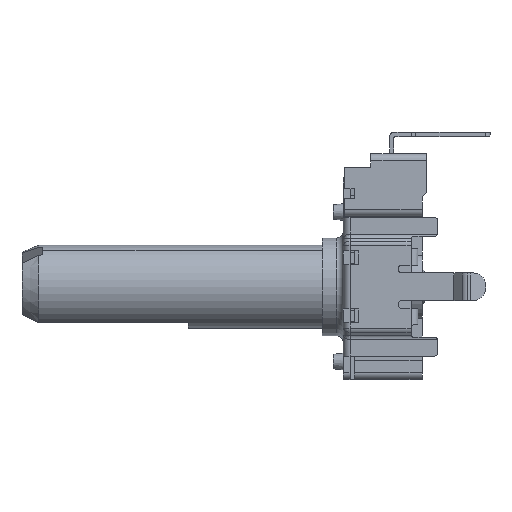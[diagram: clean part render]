
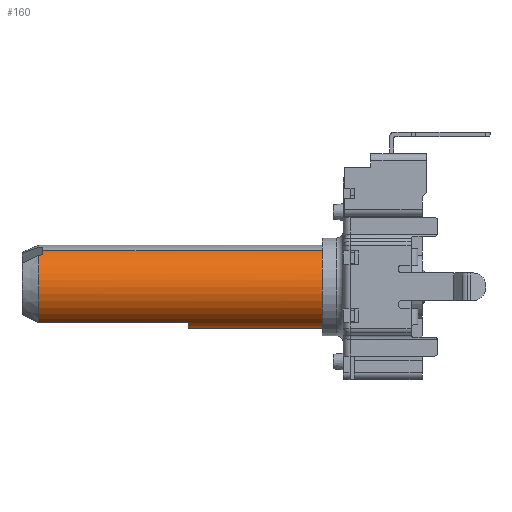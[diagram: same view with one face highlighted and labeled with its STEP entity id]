
A CAD part, left-side view. The second image highlights one B-rep face of the part: STEP entity #160.
In plain terms, the highlighted cylindrical face has radius 3 mm (diameter 6 mm), a partial arc.
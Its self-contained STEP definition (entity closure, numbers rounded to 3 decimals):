
#51 = VECTOR ( 'NONE', #6512, 1000. ) ;
#160 = ADVANCED_FACE ( 'NONE', ( #12711 ), #703, .T. ) ;
#313 = CARTESIAN_POINT ( 'NONE',  ( 0., 14.3, 3. ) ) ;
#604 = VERTEX_POINT ( 'NONE', #313 ) ;
#703 = CYLINDRICAL_SURFACE ( 'NONE', #17225, 3. ) ;
#1114 = DIRECTION ( 'NONE',  ( 0., 0., -1. ) ) ;
#1425 = CIRCLE ( 'NONE', #2810, 3. ) ;
#1721 = DIRECTION ( 'NONE',  ( 0., 0., 1. ) ) ;
#1820 = VECTOR ( 'NONE', #11490, 1000. ) ;
#1883 = EDGE_CURVE ( 'NONE', #604, #2732, #13291, .T. ) ;
#1898 = DIRECTION ( 'NONE',  ( 0., 1., 0. ) ) ;
#1907 = DIRECTION ( 'NONE',  ( 0., 0., 1. ) ) ;
#1975 = VERTEX_POINT ( 'NONE', #6320 ) ;
#2638 = CARTESIAN_POINT ( 'NONE',  ( 2.598, 14.3, 1.5 ) ) ;
#2732 = VERTEX_POINT ( 'NONE', #2638 ) ;
#2810 = AXIS2_PLACEMENT_3D ( 'NONE', #4427, #2952, #1907 ) ;
#2952 = DIRECTION ( 'NONE',  ( 0., 1., 0. ) ) ;
#3316 = ORIENTED_EDGE ( 'NONE', *, *, #1883, .F. ) ;
#3613 = DIRECTION ( 'NONE',  ( 0., 0., -1. ) ) ;
#3990 = LINE ( 'NONE', #9350, #16088 ) ;
#4427 = CARTESIAN_POINT ( 'NONE',  ( 0., 2.5, 0. ) ) ;
#4519 = EDGE_CURVE ( 'NONE', #1975, #8512, #13467, .T. ) ;
#4856 = ORIENTED_EDGE ( 'NONE', *, *, #10135, .F. ) ;
#4998 = VERTEX_POINT ( 'NONE', #16537 ) ;
#5086 = EDGE_CURVE ( 'NONE', #8512, #4998, #14567, .T. ) ;
#5122 = DIRECTION ( 'NONE',  ( 0., -1., 0. ) ) ;
#5143 = VERTEX_POINT ( 'NONE', #14425 ) ;
#5391 = CARTESIAN_POINT ( 'NONE',  ( 0.533, 25., -2.952 ) ) ;
#6194 = CARTESIAN_POINT ( 'NONE',  ( 0.5, 24.8, -2.958 ) ) ;
#6247 = EDGE_CURVE ( 'NONE', #12303, #16739, #1425, .T. ) ;
#6320 = CARTESIAN_POINT ( 'NONE',  ( 0.55, 25.1, -2.949 ) ) ;
#6490 = CARTESIAN_POINT ( 'NONE',  ( 0., 24.8, 0. ) ) ;
#6512 = DIRECTION ( 'NONE',  ( 0., -1., 0. ) ) ;
#6706 = CARTESIAN_POINT ( 'NONE',  ( 0.55, 25.1, -2.949 ) ) ;
#7346 = CARTESIAN_POINT ( 'NONE',  ( 2.598, 14.3, 1.5 ) ) ;
#7439 = ORIENTED_EDGE ( 'NONE', *, *, #10259, .F. ) ;
#7572 = CARTESIAN_POINT ( 'NONE',  ( 0., 25.1, 0. ) ) ;
#8123 = AXIS2_PLACEMENT_3D ( 'NONE', #7572, #11631, #16969 ) ;
#8512 = VERTEX_POINT ( 'NONE', #6194 ) ;
#9261 = ORIENTED_EDGE ( 'NONE', *, *, #4519, .F. ) ;
#9332 = CARTESIAN_POINT ( 'NONE',  ( 0., 25.1, 3. ) ) ;
#9350 = CARTESIAN_POINT ( 'NONE',  ( 0., 25.1, -3. ) ) ;
#9447 = CARTESIAN_POINT ( 'NONE',  ( 0.5, 24.8, -2.958 ) ) ;
#9987 = LINE ( 'NONE', #7346, #1820 ) ;
#10135 = EDGE_CURVE ( 'NONE', #2732, #5143, #9987, .T. ) ;
#10259 = EDGE_CURVE ( 'NONE', #4998, #16739, #3990, .T. ) ;
#10526 = ORIENTED_EDGE ( 'NONE', *, *, #13547, .F. ) ;
#10779 = CARTESIAN_POINT ( 'NONE',  ( 0.517, 24.9, -2.955 ) ) ;
#11397 = CARTESIAN_POINT ( 'NONE',  ( 0., 25.1, 0. ) ) ;
#11490 = DIRECTION ( 'NONE',  ( 0., 1., 0. ) ) ;
#11631 = DIRECTION ( 'NONE',  ( 0., 1., 0. ) ) ;
#11983 = EDGE_LOOP ( 'NONE', ( #3316, #15743, #14473, #7439, #16951, #9261, #10526, #4856 ) ) ;
#12252 = CARTESIAN_POINT ( 'NONE',  ( 0., 2.5, -3. ) ) ;
#12303 = VERTEX_POINT ( 'NONE', #15580 ) ;
#12711 = FACE_OUTER_BOUND ( 'NONE', #11983, .T. ) ;
#13057 = DIRECTION ( 'NONE',  ( 0., -1., 0. ) ) ;
#13291 = CIRCLE ( 'NONE', #15260, 3. ) ;
#13467 =( BOUNDED_CURVE ( )  B_SPLINE_CURVE ( 3, ( #6706, #5391, #10779, #9447 ),
 .UNSPECIFIED., .F., .F. ) 
 B_SPLINE_CURVE_WITH_KNOTS ( ( 4, 4 ),
 ( 4.528, 4.545 ),
 .UNSPECIFIED. ) 
 CURVE ( )  GEOMETRIC_REPRESENTATION_ITEM ( )  RATIONAL_B_SPLINE_CURVE ( ( 1., 1., 1., 1. ) ) 
 REPRESENTATION_ITEM ( '' )  );
#13547 = EDGE_CURVE ( 'NONE', #5143, #1975, #14017, .T. ) ;
#13658 = CARTESIAN_POINT ( 'NONE',  ( 0., 14.3, 0. ) ) ;
#14017 = CIRCLE ( 'NONE', #8123, 3. ) ;
#14425 = CARTESIAN_POINT ( 'NONE',  ( 2.598, 25.1, 1.5 ) ) ;
#14443 = LINE ( 'NONE', #9332, #51 ) ;
#14473 = ORIENTED_EDGE ( 'NONE', *, *, #6247, .T. ) ;
#14567 = CIRCLE ( 'NONE', #16817, 3. ) ;
#15207 = EDGE_CURVE ( 'NONE', #604, #12303, #14443, .T. ) ;
#15260 = AXIS2_PLACEMENT_3D ( 'NONE', #13658, #1898, #1721 ) ;
#15580 = CARTESIAN_POINT ( 'NONE',  ( 0., 2.5, 3. ) ) ;
#15740 = DIRECTION ( 'NONE',  ( 0., 1., 0. ) ) ;
#15743 = ORIENTED_EDGE ( 'NONE', *, *, #15207, .T. ) ;
#16088 = VECTOR ( 'NONE', #13057, 1000. ) ;
#16537 = CARTESIAN_POINT ( 'NONE',  ( 0., 24.8, -3. ) ) ;
#16739 = VERTEX_POINT ( 'NONE', #12252 ) ;
#16817 = AXIS2_PLACEMENT_3D ( 'NONE', #6490, #15740, #3613 ) ;
#16951 = ORIENTED_EDGE ( 'NONE', *, *, #5086, .F. ) ;
#16969 = DIRECTION ( 'NONE',  ( 0., 0., 1. ) ) ;
#17225 = AXIS2_PLACEMENT_3D ( 'NONE', #11397, #5122, #1114 ) ;
